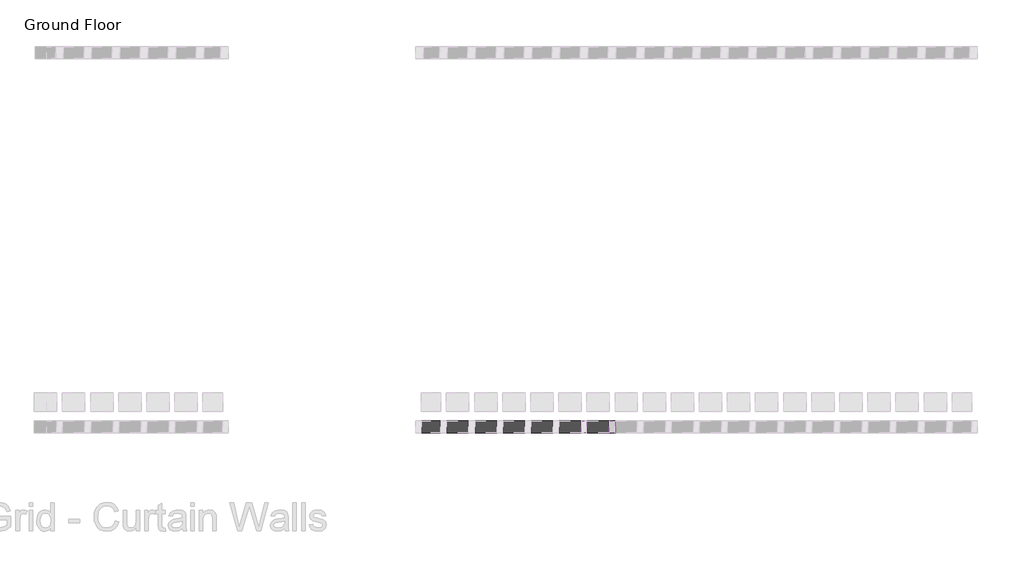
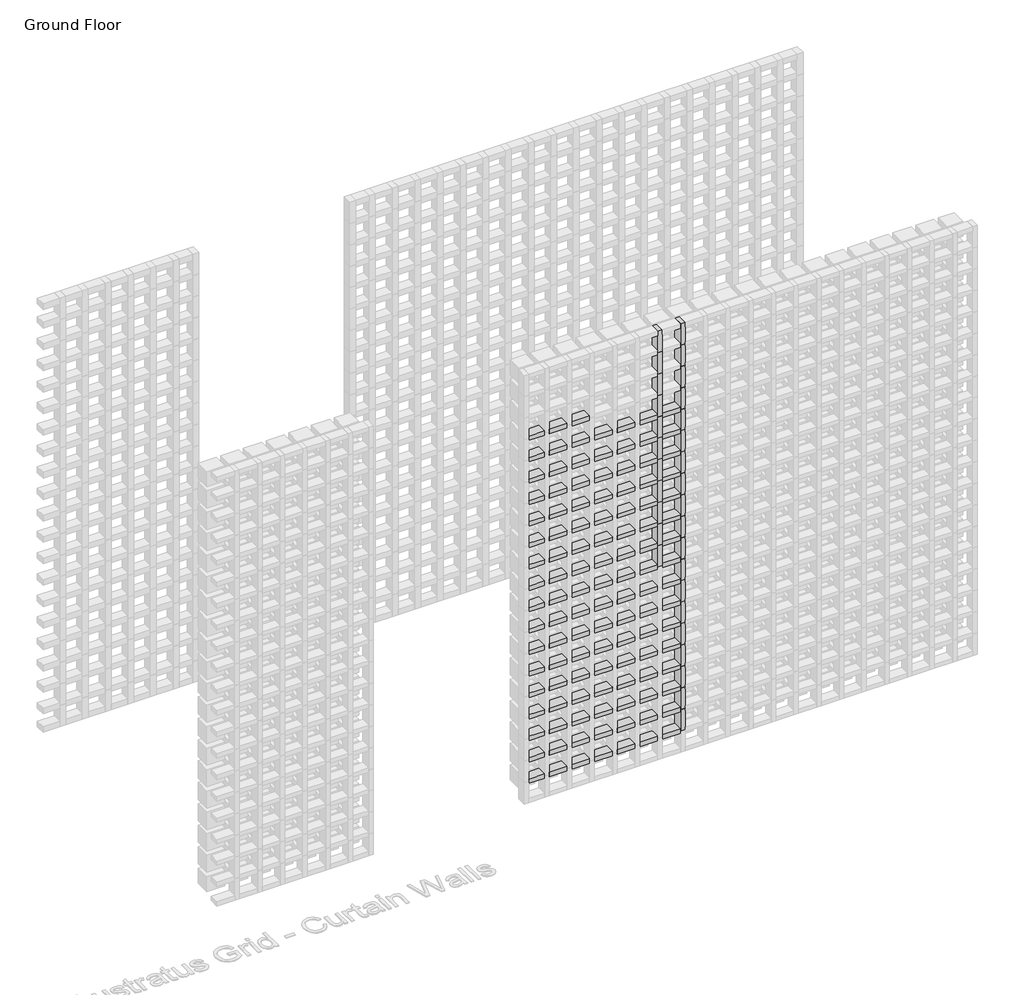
# One storey, part 57 of 350: 145 members.
"""IFC4 building model written with IfcOpenShell, lengths in millimetres."""

from ifc_helpers import new_model, si_unit, origin, place, context, project, spatial, transform, mapped, element, save
from components import rectangular_mullion_5b501421, rectangular_mullion_e9e2e2fa, rectangular_mullion_f28dea33

model = new_model("IFC4")

# Units and contexts
model_context = context("Model", 3, world=origin())
ifc_project = project(units=[si_unit("LENGTHUNIT", "METRE", prefix="MILLI")], contexts=[model_context])

# Site, building, storey
site = spatial("IfcSite", under=ifc_project)
building = spatial("IfcBuilding", under=site)
storey = spatial("IfcBuildingStorey", under=building, Name="Ground Floor", Elevation=0.0)

# Members
placement = place(None, origin())
rectangular_mullion_shape = rectangular_mullion_5b501421(model_context)
element("IfcMember", 1, ObjectType="Rectangular Mullion : Batten_Timber_Modinex_Austratus_Grid_Fascia_30x65_Blackbutt", at=placement, inside=storey, context=model_context, shape_type="MappedRepresentation", body=[
    mapped(rectangular_mullion_shape, transform((6816.4361642, 38968.2978302, 1350.0), x_axis=(1.0, 0.0, 0.0), y_axis=(0.0, -1.0, 0.0), z_axis=(0.0, 0.0, -1.0))),
])
element("IfcMember", 2, ObjectType="Rectangular Mullion : Batten_Timber_Modinex_Austratus_Grid_Fascia_30x65_Blackbutt", at=placement, inside=storey, context=model_context, shape_type="MappedRepresentation", body=[
    mapped(rectangular_mullion_shape, transform((6816.4361642, 38968.2978302, 1500.0), x_axis=(1.0, 0.0, 0.0), y_axis=(0.0, -1.0, 0.0), z_axis=(0.0, 0.0, -1.0))),
])
element("IfcMember", 3, ObjectType="Rectangular Mullion : Batten_Timber_Modinex_Austratus_Grid_Fascia_30x65_Blackbutt", at=placement, inside=storey, context=model_context, shape_type="MappedRepresentation", body=[
    mapped(rectangular_mullion_shape, transform((6816.4361642, 38968.2978302, 1650.0), x_axis=(1.0, 0.0, 0.0), y_axis=(0.0, -1.0, 0.0), z_axis=(0.0, 0.0, -1.0))),
])
element("IfcMember", 4, ObjectType="Rectangular Mullion : Batten_Timber_Modinex_Austratus_Grid_Fascia_30x65_Blackbutt", at=placement, inside=storey, context=model_context, shape_type="MappedRepresentation", body=[
    mapped(rectangular_mullion_shape, transform((6816.4361642, 38968.2978302, 1800.0), x_axis=(1.0, 0.0, 0.0), y_axis=(0.0, -1.0, 0.0), z_axis=(0.0, 0.0, -1.0))),
])
element("IfcMember", 5, ObjectType="Rectangular Mullion : Batten_Timber_Modinex_Austratus_Grid_Fascia_30x65_Blackbutt", at=placement, inside=storey, context=model_context, shape_type="MappedRepresentation", body=[
    mapped(rectangular_mullion_shape, transform((6816.4361642, 38968.2978302, 1950.0), x_axis=(1.0, 0.0, 0.0), y_axis=(0.0, -1.0, 0.0), z_axis=(0.0, 0.0, -1.0))),
])
element("IfcMember", 6, ObjectType="Rectangular Mullion : Batten_Timber_Modinex_Austratus_Grid_Fascia_30x65_Blackbutt", at=placement, inside=storey, context=model_context, shape_type="MappedRepresentation", body=[
    mapped(rectangular_mullion_shape, transform((6816.4361642, 38968.2978302, 2100.0), x_axis=(1.0, 0.0, 0.0), y_axis=(0.0, -1.0, 0.0), z_axis=(0.0, 0.0, -1.0))),
])
element("IfcMember", 7, ObjectType="Rectangular Mullion : Batten_Timber_Modinex_Austratus_Grid_Fascia_30x65_Blackbutt", at=placement, inside=storey, context=model_context, shape_type="MappedRepresentation", body=[
    mapped(rectangular_mullion_shape, transform((6816.4361642, 38968.2978302, 2250.0), x_axis=(1.0, 0.0, 0.0), y_axis=(0.0, -1.0, 0.0), z_axis=(0.0, 0.0, -1.0))),
])
element("IfcMember", 8, ObjectType="Rectangular Mullion : Batten_Timber_Modinex_Austratus_Grid_Fascia_30x65_Blackbutt", at=placement, inside=storey, context=model_context, shape_type="MappedRepresentation", body=[
    mapped(rectangular_mullion_shape, transform((6816.4361642, 38968.2978302, 2400.0), x_axis=(1.0, 0.0, 0.0), y_axis=(0.0, -1.0, 0.0), z_axis=(0.0, 0.0, -1.0))),
])
element("IfcMember", 9, ObjectType="Rectangular Mullion : Batten_Timber_Modinex_Austratus_Grid_Fascia_30x65_Blackbutt", at=placement, inside=storey, context=model_context, shape_type="MappedRepresentation", body=[
    mapped(rectangular_mullion_shape, transform((6816.4361642, 38968.2978302, 2550.0), x_axis=(1.0, 0.0, 0.0), y_axis=(0.0, -1.0, 0.0), z_axis=(0.0, 0.0, -1.0))),
])
element("IfcMember", 10, ObjectType="Rectangular Mullion : Batten_Timber_Modinex_Austratus_Grid_Fascia_30x65_Blackbutt", at=placement, inside=storey, context=model_context, shape_type="MappedRepresentation", body=[
    mapped(rectangular_mullion_shape, transform((6816.4361642, 38968.2978302, 2700.0), x_axis=(1.0, 0.0, 0.0), y_axis=(0.0, -1.0, 0.0), z_axis=(0.0, 0.0, -1.0))),
])
element("IfcMember", 11, ObjectType="Rectangular Mullion : Batten_Timber_Modinex_Austratus_Grid_Fascia_30x65_Blackbutt", at=placement, inside=storey, context=model_context, shape_type="MappedRepresentation", body=[
    mapped(rectangular_mullion_shape, transform((6966.4361642, 38968.2978302, 150.0), x_axis=(1.0, 0.0, 0.0), y_axis=(0.0, -1.0, 0.0), z_axis=(0.0, 0.0, -1.0))),
])
element("IfcMember", 12, ObjectType="Rectangular Mullion : Batten_Timber_Modinex_Austratus_Grid_Fascia_30x65_Blackbutt", at=placement, inside=storey, context=model_context, shape_type="MappedRepresentation", body=[
    mapped(rectangular_mullion_shape, transform((6966.4361642, 38968.2978302, 300.0), x_axis=(1.0, 0.0, 0.0), y_axis=(0.0, -1.0, 0.0), z_axis=(0.0, 0.0, -1.0))),
])
element("IfcMember", 13, ObjectType="Rectangular Mullion : Batten_Timber_Modinex_Austratus_Grid_Fascia_30x65_Blackbutt", at=placement, inside=storey, context=model_context, shape_type="MappedRepresentation", body=[
    mapped(rectangular_mullion_shape, transform((6966.4361642, 38968.2978302, 450.0), x_axis=(1.0, 0.0, 0.0), y_axis=(0.0, -1.0, 0.0), z_axis=(0.0, 0.0, -1.0))),
])
element("IfcMember", 14, ObjectType="Rectangular Mullion : Batten_Timber_Modinex_Austratus_Grid_Fascia_30x65_Blackbutt", at=placement, inside=storey, context=model_context, shape_type="MappedRepresentation", body=[
    mapped(rectangular_mullion_shape, transform((6966.4361642, 38968.2978302, 600.0), x_axis=(1.0, 0.0, 0.0), y_axis=(0.0, -1.0, 0.0), z_axis=(0.0, 0.0, -1.0))),
])
element("IfcMember", 15, ObjectType="Rectangular Mullion : Batten_Timber_Modinex_Austratus_Grid_Fascia_30x65_Blackbutt", at=placement, inside=storey, context=model_context, shape_type="MappedRepresentation", body=[
    mapped(rectangular_mullion_shape, transform((6966.4361642, 38968.2978302, 750.0), x_axis=(1.0, 0.0, 0.0), y_axis=(0.0, -1.0, 0.0), z_axis=(0.0, 0.0, -1.0))),
])
element("IfcMember", 16, ObjectType="Rectangular Mullion : Batten_Timber_Modinex_Austratus_Grid_Fascia_30x65_Blackbutt", at=placement, inside=storey, context=model_context, shape_type="MappedRepresentation", body=[
    mapped(rectangular_mullion_shape, transform((6966.4361642, 38968.2978302, 900.0), x_axis=(1.0, 0.0, 0.0), y_axis=(0.0, -1.0, 0.0), z_axis=(0.0, 0.0, -1.0))),
])
element("IfcMember", 17, ObjectType="Rectangular Mullion : Batten_Timber_Modinex_Austratus_Grid_Fascia_30x65_Blackbutt", at=placement, inside=storey, context=model_context, shape_type="MappedRepresentation", body=[
    mapped(rectangular_mullion_shape, transform((6966.4361642, 38968.2978302, 1050.0), x_axis=(1.0, 0.0, 0.0), y_axis=(0.0, -1.0, 0.0), z_axis=(0.0, 0.0, -1.0))),
])
element("IfcMember", 18, ObjectType="Rectangular Mullion : Batten_Timber_Modinex_Austratus_Grid_Fascia_30x65_Blackbutt", at=placement, inside=storey, context=model_context, shape_type="MappedRepresentation", body=[
    mapped(rectangular_mullion_shape, transform((6966.4361642, 38968.2978302, 1200.0), x_axis=(1.0, 0.0, 0.0), y_axis=(0.0, -1.0, 0.0), z_axis=(0.0, 0.0, -1.0))),
])
element("IfcMember", 19, ObjectType="Rectangular Mullion : Batten_Timber_Modinex_Austratus_Grid_Fascia_30x65_Blackbutt", at=placement, inside=storey, context=model_context, shape_type="MappedRepresentation", body=[
    mapped(rectangular_mullion_shape, transform((6966.4361642, 38968.2978302, 1350.0), x_axis=(1.0, 0.0, 0.0), y_axis=(0.0, -1.0, 0.0), z_axis=(0.0, 0.0, -1.0))),
])
element("IfcMember", 20, ObjectType="Rectangular Mullion : Batten_Timber_Modinex_Austratus_Grid_Fascia_30x65_Blackbutt", at=placement, inside=storey, context=model_context, shape_type="MappedRepresentation", body=[
    mapped(rectangular_mullion_shape, transform((6966.4361642, 38968.2978302, 1500.0), x_axis=(1.0, 0.0, 0.0), y_axis=(0.0, -1.0, 0.0), z_axis=(0.0, 0.0, -1.0))),
])
element("IfcMember", 21, ObjectType="Rectangular Mullion : Batten_Timber_Modinex_Austratus_Grid_Fascia_30x65_Blackbutt", at=placement, inside=storey, context=model_context, shape_type="MappedRepresentation", body=[
    mapped(rectangular_mullion_shape, transform((6966.4361642, 38968.2978302, 1650.0), x_axis=(1.0, 0.0, 0.0), y_axis=(0.0, -1.0, 0.0), z_axis=(0.0, 0.0, -1.0))),
])
element("IfcMember", 22, ObjectType="Rectangular Mullion : Batten_Timber_Modinex_Austratus_Grid_Fascia_30x65_Blackbutt", at=placement, inside=storey, context=model_context, shape_type="MappedRepresentation", body=[
    mapped(rectangular_mullion_shape, transform((6966.4361642, 38968.2978302, 1800.0), x_axis=(1.0, 0.0, 0.0), y_axis=(0.0, -1.0, 0.0), z_axis=(0.0, 0.0, -1.0))),
])
element("IfcMember", 23, ObjectType="Rectangular Mullion : Batten_Timber_Modinex_Austratus_Grid_Fascia_30x65_Blackbutt", at=placement, inside=storey, context=model_context, shape_type="MappedRepresentation", body=[
    mapped(rectangular_mullion_shape, transform((6966.4361642, 38968.2978302, 1950.0), x_axis=(1.0, 0.0, 0.0), y_axis=(0.0, -1.0, 0.0), z_axis=(0.0, 0.0, -1.0))),
])
element("IfcMember", 24, ObjectType="Rectangular Mullion : Batten_Timber_Modinex_Austratus_Grid_Fascia_30x65_Blackbutt", at=placement, inside=storey, context=model_context, shape_type="MappedRepresentation", body=[
    mapped(rectangular_mullion_shape, transform((6966.4361642, 38968.2978302, 2100.0), x_axis=(1.0, 0.0, 0.0), y_axis=(0.0, -1.0, 0.0), z_axis=(0.0, 0.0, -1.0))),
])
element("IfcMember", 25, ObjectType="Rectangular Mullion : Batten_Timber_Modinex_Austratus_Grid_Fascia_30x65_Blackbutt", at=placement, inside=storey, context=model_context, shape_type="MappedRepresentation", body=[
    mapped(rectangular_mullion_shape, transform((6966.4361642, 38968.2978302, 2250.0), x_axis=(1.0, 0.0, 0.0), y_axis=(0.0, -1.0, 0.0), z_axis=(0.0, 0.0, -1.0))),
])
element("IfcMember", 26, ObjectType="Rectangular Mullion : Batten_Timber_Modinex_Austratus_Grid_Fascia_30x65_Blackbutt", at=placement, inside=storey, context=model_context, shape_type="MappedRepresentation", body=[
    mapped(rectangular_mullion_shape, transform((6966.4361642, 38968.2978302, 2400.0), x_axis=(1.0, 0.0, 0.0), y_axis=(0.0, -1.0, 0.0), z_axis=(0.0, 0.0, -1.0))),
])
element("IfcMember", 27, ObjectType="Rectangular Mullion : Batten_Timber_Modinex_Austratus_Grid_Fascia_30x65_Blackbutt", at=placement, inside=storey, context=model_context, shape_type="MappedRepresentation", body=[
    mapped(rectangular_mullion_shape, transform((6966.4361642, 38968.2978302, 2550.0), x_axis=(1.0, 0.0, 0.0), y_axis=(0.0, -1.0, 0.0), z_axis=(0.0, 0.0, -1.0))),
])
element("IfcMember", 28, ObjectType="Rectangular Mullion : Batten_Timber_Modinex_Austratus_Grid_Fascia_30x65_Blackbutt", at=placement, inside=storey, context=model_context, shape_type="MappedRepresentation", body=[
    mapped(rectangular_mullion_shape, transform((6966.4361642, 38968.2978302, 2700.0), x_axis=(1.0, 0.0, 0.0), y_axis=(0.0, -1.0, 0.0), z_axis=(0.0, 0.0, -1.0))),
])
element("IfcMember", 29, ObjectType="Rectangular Mullion : Batten_Timber_Modinex_Austratus_Grid_Fascia_30x65_Blackbutt", at=placement, inside=storey, context=model_context, shape_type="MappedRepresentation", body=[
    mapped(rectangular_mullion_shape, transform((6816.4361642, 38968.2978302, 2850.0), x_axis=(1.0, 0.0, 0.0), y_axis=(0.0, -1.0, 0.0), z_axis=(0.0, 0.0, -1.0))),
])
element("IfcMember", 30, ObjectType="Rectangular Mullion : Batten_Timber_Modinex_Austratus_Grid_Fascia_30x65_Blackbutt", at=placement, inside=storey, context=model_context, shape_type="MappedRepresentation", body=[
    mapped(rectangular_mullion_shape, transform((6966.4361642, 38968.2978302, 2850.0), x_axis=(1.0, 0.0, 0.0), y_axis=(0.0, -1.0, 0.0), z_axis=(0.0, 0.0, -1.0))),
])
rectangular_mullion_2_shape = rectangular_mullion_e9e2e2fa(model_context)
element("IfcMember", 31, ObjectType="Rectangular Mullion : Batten_Timber_Modinex_Austratus_Grid_Fascia_30x65_Blackbutt", at=placement, inside=storey, context=model_context, shape_type="MappedRepresentation", body=[
    mapped(rectangular_mullion_2_shape, transform((6051.4361642, 38968.2978302, 150.0), x_axis=(0.0, 0.0, 1.0), y_axis=(0.0, -1.0, 0.0), z_axis=(1.0, 0.0, 0.0))),
])
element("IfcMember", 32, ObjectType="Rectangular Mullion : Batten_Timber_Modinex_Austratus_Grid_Fascia_30x65_Blackbutt", at=placement, inside=storey, context=model_context, shape_type="MappedRepresentation", body=[
    mapped(rectangular_mullion_2_shape, transform((6051.4361642, 38968.2978302, 300.0), x_axis=(0.0, 0.0, 1.0), y_axis=(0.0, -1.0, 0.0), z_axis=(1.0, 0.0, 0.0))),
])
element("IfcMember", 33, ObjectType="Rectangular Mullion : Batten_Timber_Modinex_Austratus_Grid_Fascia_30x65_Blackbutt", at=placement, inside=storey, context=model_context, shape_type="MappedRepresentation", body=[
    mapped(rectangular_mullion_2_shape, transform((6051.4361642, 38968.2978302, 450.0), x_axis=(0.0, 0.0, 1.0), y_axis=(0.0, -1.0, 0.0), z_axis=(1.0, 0.0, 0.0))),
])
element("IfcMember", 34, ObjectType="Rectangular Mullion : Batten_Timber_Modinex_Austratus_Grid_Fascia_30x65_Blackbutt", at=placement, inside=storey, context=model_context, shape_type="MappedRepresentation", body=[
    mapped(rectangular_mullion_2_shape, transform((6051.4361642, 38968.2978302, 600.0), x_axis=(0.0, 0.0, 1.0), y_axis=(0.0, -1.0, 0.0), z_axis=(1.0, 0.0, 0.0))),
])
element("IfcMember", 35, ObjectType="Rectangular Mullion : Batten_Timber_Modinex_Austratus_Grid_Fascia_30x65_Blackbutt", at=placement, inside=storey, context=model_context, shape_type="MappedRepresentation", body=[
    mapped(rectangular_mullion_2_shape, transform((6051.4361642, 38968.2978302, 750.0), x_axis=(0.0, 0.0, 1.0), y_axis=(0.0, -1.0, 0.0), z_axis=(1.0, 0.0, 0.0))),
])
element("IfcMember", 36, ObjectType="Rectangular Mullion : Batten_Timber_Modinex_Austratus_Grid_Fascia_30x65_Blackbutt", at=placement, inside=storey, context=model_context, shape_type="MappedRepresentation", body=[
    mapped(rectangular_mullion_2_shape, transform((6051.4361642, 38968.2978302, 900.0), x_axis=(0.0, 0.0, 1.0), y_axis=(0.0, -1.0, 0.0), z_axis=(1.0, 0.0, 0.0))),
])
element("IfcMember", 37, ObjectType="Rectangular Mullion : Batten_Timber_Modinex_Austratus_Grid_Fascia_30x65_Blackbutt", at=placement, inside=storey, context=model_context, shape_type="MappedRepresentation", body=[
    mapped(rectangular_mullion_2_shape, transform((6051.4361642, 38968.2978302, 1050.0), x_axis=(0.0, 0.0, 1.0), y_axis=(0.0, -1.0, 0.0), z_axis=(1.0, 0.0, 0.0))),
])
element("IfcMember", 38, ObjectType="Rectangular Mullion : Batten_Timber_Modinex_Austratus_Grid_Fascia_30x65_Blackbutt", at=placement, inside=storey, context=model_context, shape_type="MappedRepresentation", body=[
    mapped(rectangular_mullion_2_shape, transform((6051.4361642, 38968.2978302, 1200.0), x_axis=(0.0, 0.0, 1.0), y_axis=(0.0, -1.0, 0.0), z_axis=(1.0, 0.0, 0.0))),
])
element("IfcMember", 39, ObjectType="Rectangular Mullion : Batten_Timber_Modinex_Austratus_Grid_Fascia_30x65_Blackbutt", at=placement, inside=storey, context=model_context, shape_type="MappedRepresentation", body=[
    mapped(rectangular_mullion_2_shape, transform((6051.4361642, 38968.2978302, 1350.0), x_axis=(0.0, 0.0, 1.0), y_axis=(0.0, -1.0, 0.0), z_axis=(1.0, 0.0, 0.0))),
])
element("IfcMember", 40, ObjectType="Rectangular Mullion : Batten_Timber_Modinex_Austratus_Grid_Fascia_30x65_Blackbutt", at=placement, inside=storey, context=model_context, shape_type="MappedRepresentation", body=[
    mapped(rectangular_mullion_2_shape, transform((6051.4361642, 38968.2978302, 1500.0), x_axis=(0.0, 0.0, 1.0), y_axis=(0.0, -1.0, 0.0), z_axis=(1.0, 0.0, 0.0))),
])
element("IfcMember", 41, ObjectType="Rectangular Mullion : Batten_Timber_Modinex_Austratus_Grid_Fascia_30x65_Blackbutt", at=placement, inside=storey, context=model_context, shape_type="MappedRepresentation", body=[
    mapped(rectangular_mullion_2_shape, transform((6051.4361642, 38968.2978302, 1650.0), x_axis=(0.0, 0.0, 1.0), y_axis=(0.0, -1.0, 0.0), z_axis=(1.0, 0.0, 0.0))),
])
element("IfcMember", 42, ObjectType="Rectangular Mullion : Batten_Timber_Modinex_Austratus_Grid_Fascia_30x65_Blackbutt", at=placement, inside=storey, context=model_context, shape_type="MappedRepresentation", body=[
    mapped(rectangular_mullion_2_shape, transform((6051.4361642, 38968.2978302, 1800.0), x_axis=(0.0, 0.0, 1.0), y_axis=(0.0, -1.0, 0.0), z_axis=(1.0, 0.0, 0.0))),
])
element("IfcMember", 43, ObjectType="Rectangular Mullion : Batten_Timber_Modinex_Austratus_Grid_Fascia_30x65_Blackbutt", at=placement, inside=storey, context=model_context, shape_type="MappedRepresentation", body=[
    mapped(rectangular_mullion_2_shape, transform((6051.4361642, 38968.2978302, 1950.0), x_axis=(0.0, 0.0, 1.0), y_axis=(0.0, -1.0, 0.0), z_axis=(1.0, 0.0, 0.0))),
])
element("IfcMember", 44, ObjectType="Rectangular Mullion : Batten_Timber_Modinex_Austratus_Grid_Fascia_30x65_Blackbutt", at=placement, inside=storey, context=model_context, shape_type="MappedRepresentation", body=[
    mapped(rectangular_mullion_2_shape, transform((6051.4361642, 38968.2978302, 2100.0), x_axis=(0.0, 0.0, 1.0), y_axis=(0.0, -1.0, 0.0), z_axis=(1.0, 0.0, 0.0))),
])
element("IfcMember", 45, ObjectType="Rectangular Mullion : Batten_Timber_Modinex_Austratus_Grid_Fascia_30x65_Blackbutt", at=placement, inside=storey, context=model_context, shape_type="MappedRepresentation", body=[
    mapped(rectangular_mullion_2_shape, transform((6051.4361642, 38968.2978302, 2250.0), x_axis=(0.0, 0.0, 1.0), y_axis=(0.0, -1.0, 0.0), z_axis=(1.0, 0.0, 0.0))),
])
element("IfcMember", 46, ObjectType="Rectangular Mullion : Batten_Timber_Modinex_Austratus_Grid_Fascia_30x65_Blackbutt", at=placement, inside=storey, context=model_context, shape_type="MappedRepresentation", body=[
    mapped(rectangular_mullion_2_shape, transform((6051.4361642, 38968.2978302, 2400.0), x_axis=(0.0, 0.0, 1.0), y_axis=(0.0, -1.0, 0.0), z_axis=(1.0, 0.0, 0.0))),
])
element("IfcMember", 47, ObjectType="Rectangular Mullion : Batten_Timber_Modinex_Austratus_Grid_Fascia_30x65_Blackbutt", at=placement, inside=storey, context=model_context, shape_type="MappedRepresentation", body=[
    mapped(rectangular_mullion_2_shape, transform((6051.4361642, 38968.2978302, 2550.0), x_axis=(0.0, 0.0, 1.0), y_axis=(0.0, -1.0, 0.0), z_axis=(1.0, 0.0, 0.0))),
])
rectangular_mullion_3_shape = rectangular_mullion_f28dea33(model_context)
element("IfcMember", 48, ObjectType="Rectangular Mullion : Batten_Timber_Modinex_Austratus_Grid_Fascia_30x65_Blackbutt", at=placement, inside=storey, context=model_context, shape_type="MappedRepresentation", body=[
    mapped(rectangular_mullion_3_shape, transform((6201.4361642, 38968.2978302, 150.0), x_axis=(0.0, 0.0, 1.0), y_axis=(0.0, -1.0, 0.0), z_axis=(1.0, 0.0, 0.0))),
])
element("IfcMember", 49, ObjectType="Rectangular Mullion : Batten_Timber_Modinex_Austratus_Grid_Fascia_30x65_Blackbutt", at=placement, inside=storey, context=model_context, shape_type="MappedRepresentation", body=[
    mapped(rectangular_mullion_3_shape, transform((6351.4361642, 38968.2978302, 150.0), x_axis=(0.0, 0.0, 1.0), y_axis=(0.0, -1.0, 0.0), z_axis=(1.0, 0.0, 0.0))),
])
element("IfcMember", 50, ObjectType="Rectangular Mullion : Batten_Timber_Modinex_Austratus_Grid_Fascia_30x65_Blackbutt", at=placement, inside=storey, context=model_context, shape_type="MappedRepresentation", body=[
    mapped(rectangular_mullion_3_shape, transform((6501.4361642, 38968.2978302, 150.0), x_axis=(0.0, 0.0, 1.0), y_axis=(0.0, -1.0, 0.0), z_axis=(1.0, 0.0, 0.0))),
])
element("IfcMember", 51, ObjectType="Rectangular Mullion : Batten_Timber_Modinex_Austratus_Grid_Fascia_30x65_Blackbutt", at=placement, inside=storey, context=model_context, shape_type="MappedRepresentation", body=[
    mapped(rectangular_mullion_3_shape, transform((6651.4361642, 38968.2978302, 150.0), x_axis=(0.0, 0.0, 1.0), y_axis=(0.0, -1.0, 0.0), z_axis=(1.0, 0.0, 0.0))),
])
element("IfcMember", 52, ObjectType="Rectangular Mullion : Batten_Timber_Modinex_Austratus_Grid_Fascia_30x65_Blackbutt", at=placement, inside=storey, context=model_context, shape_type="MappedRepresentation", body=[
    mapped(rectangular_mullion_3_shape, transform((6801.4361642, 38968.2978302, 150.0), x_axis=(0.0, 0.0, 1.0), y_axis=(0.0, -1.0, 0.0), z_axis=(1.0, 0.0, 0.0))),
])
element("IfcMember", 53, ObjectType="Rectangular Mullion : Batten_Timber_Modinex_Austratus_Grid_Fascia_30x65_Blackbutt", at=placement, inside=storey, context=model_context, shape_type="MappedRepresentation", body=[
    mapped(rectangular_mullion_3_shape, transform((6951.4361642, 38968.2978302, 150.0), x_axis=(0.0, 0.0, 1.0), y_axis=(0.0, -1.0, 0.0), z_axis=(1.0, 0.0, 0.0))),
])
element("IfcMember", 54, ObjectType="Rectangular Mullion : Batten_Timber_Modinex_Austratus_Grid_Fascia_30x65_Blackbutt", at=placement, inside=storey, context=model_context, shape_type="MappedRepresentation", body=[
    mapped(rectangular_mullion_3_shape, transform((6201.4361642, 38968.2978302, 300.0), x_axis=(0.0, 0.0, 1.0), y_axis=(0.0, -1.0, 0.0), z_axis=(1.0, 0.0, 0.0))),
])
element("IfcMember", 55, ObjectType="Rectangular Mullion : Batten_Timber_Modinex_Austratus_Grid_Fascia_30x65_Blackbutt", at=placement, inside=storey, context=model_context, shape_type="MappedRepresentation", body=[
    mapped(rectangular_mullion_3_shape, transform((6351.4361642, 38968.2978302, 300.0), x_axis=(0.0, 0.0, 1.0), y_axis=(0.0, -1.0, 0.0), z_axis=(1.0, 0.0, 0.0))),
])
element("IfcMember", 56, ObjectType="Rectangular Mullion : Batten_Timber_Modinex_Austratus_Grid_Fascia_30x65_Blackbutt", at=placement, inside=storey, context=model_context, shape_type="MappedRepresentation", body=[
    mapped(rectangular_mullion_3_shape, transform((6501.4361642, 38968.2978302, 300.0), x_axis=(0.0, 0.0, 1.0), y_axis=(0.0, -1.0, 0.0), z_axis=(1.0, 0.0, 0.0))),
])
element("IfcMember", 57, ObjectType="Rectangular Mullion : Batten_Timber_Modinex_Austratus_Grid_Fascia_30x65_Blackbutt", at=placement, inside=storey, context=model_context, shape_type="MappedRepresentation", body=[
    mapped(rectangular_mullion_3_shape, transform((6651.4361642, 38968.2978302, 300.0), x_axis=(0.0, 0.0, 1.0), y_axis=(0.0, -1.0, 0.0), z_axis=(1.0, 0.0, 0.0))),
])
element("IfcMember", 58, ObjectType="Rectangular Mullion : Batten_Timber_Modinex_Austratus_Grid_Fascia_30x65_Blackbutt", at=placement, inside=storey, context=model_context, shape_type="MappedRepresentation", body=[
    mapped(rectangular_mullion_3_shape, transform((6801.4361642, 38968.2978302, 300.0), x_axis=(0.0, 0.0, 1.0), y_axis=(0.0, -1.0, 0.0), z_axis=(1.0, 0.0, 0.0))),
])
element("IfcMember", 59, ObjectType="Rectangular Mullion : Batten_Timber_Modinex_Austratus_Grid_Fascia_30x65_Blackbutt", at=placement, inside=storey, context=model_context, shape_type="MappedRepresentation", body=[
    mapped(rectangular_mullion_3_shape, transform((6951.4361642, 38968.2978302, 300.0), x_axis=(0.0, 0.0, 1.0), y_axis=(0.0, -1.0, 0.0), z_axis=(1.0, 0.0, 0.0))),
])
element("IfcMember", 60, ObjectType="Rectangular Mullion : Batten_Timber_Modinex_Austratus_Grid_Fascia_30x65_Blackbutt", at=placement, inside=storey, context=model_context, shape_type="MappedRepresentation", body=[
    mapped(rectangular_mullion_3_shape, transform((6201.4361642, 38968.2978302, 450.0), x_axis=(0.0, 0.0, 1.0), y_axis=(0.0, -1.0, 0.0), z_axis=(1.0, 0.0, 0.0))),
])
element("IfcMember", 61, ObjectType="Rectangular Mullion : Batten_Timber_Modinex_Austratus_Grid_Fascia_30x65_Blackbutt", at=placement, inside=storey, context=model_context, shape_type="MappedRepresentation", body=[
    mapped(rectangular_mullion_3_shape, transform((6351.4361642, 38968.2978302, 450.0), x_axis=(0.0, 0.0, 1.0), y_axis=(0.0, -1.0, 0.0), z_axis=(1.0, 0.0, 0.0))),
])
element("IfcMember", 62, ObjectType="Rectangular Mullion : Batten_Timber_Modinex_Austratus_Grid_Fascia_30x65_Blackbutt", at=placement, inside=storey, context=model_context, shape_type="MappedRepresentation", body=[
    mapped(rectangular_mullion_3_shape, transform((6501.4361642, 38968.2978302, 450.0), x_axis=(0.0, 0.0, 1.0), y_axis=(0.0, -1.0, 0.0), z_axis=(1.0, 0.0, 0.0))),
])
element("IfcMember", 63, ObjectType="Rectangular Mullion : Batten_Timber_Modinex_Austratus_Grid_Fascia_30x65_Blackbutt", at=placement, inside=storey, context=model_context, shape_type="MappedRepresentation", body=[
    mapped(rectangular_mullion_3_shape, transform((6651.4361642, 38968.2978302, 450.0), x_axis=(0.0, 0.0, 1.0), y_axis=(0.0, -1.0, 0.0), z_axis=(1.0, 0.0, 0.0))),
])
element("IfcMember", 64, ObjectType="Rectangular Mullion : Batten_Timber_Modinex_Austratus_Grid_Fascia_30x65_Blackbutt", at=placement, inside=storey, context=model_context, shape_type="MappedRepresentation", body=[
    mapped(rectangular_mullion_3_shape, transform((6801.4361642, 38968.2978302, 450.0), x_axis=(0.0, 0.0, 1.0), y_axis=(0.0, -1.0, 0.0), z_axis=(1.0, 0.0, 0.0))),
])
element("IfcMember", 65, ObjectType="Rectangular Mullion : Batten_Timber_Modinex_Austratus_Grid_Fascia_30x65_Blackbutt", at=placement, inside=storey, context=model_context, shape_type="MappedRepresentation", body=[
    mapped(rectangular_mullion_3_shape, transform((6951.4361642, 38968.2978302, 450.0), x_axis=(0.0, 0.0, 1.0), y_axis=(0.0, -1.0, 0.0), z_axis=(1.0, 0.0, 0.0))),
])
element("IfcMember", 66, ObjectType="Rectangular Mullion : Batten_Timber_Modinex_Austratus_Grid_Fascia_30x65_Blackbutt", at=placement, inside=storey, context=model_context, shape_type="MappedRepresentation", body=[
    mapped(rectangular_mullion_3_shape, transform((6201.4361642, 38968.2978302, 600.0), x_axis=(0.0, 0.0, 1.0), y_axis=(0.0, -1.0, 0.0), z_axis=(1.0, 0.0, 0.0))),
])
element("IfcMember", 67, ObjectType="Rectangular Mullion : Batten_Timber_Modinex_Austratus_Grid_Fascia_30x65_Blackbutt", at=placement, inside=storey, context=model_context, shape_type="MappedRepresentation", body=[
    mapped(rectangular_mullion_3_shape, transform((6351.4361642, 38968.2978302, 600.0), x_axis=(0.0, 0.0, 1.0), y_axis=(0.0, -1.0, 0.0), z_axis=(1.0, 0.0, 0.0))),
])
element("IfcMember", 68, ObjectType="Rectangular Mullion : Batten_Timber_Modinex_Austratus_Grid_Fascia_30x65_Blackbutt", at=placement, inside=storey, context=model_context, shape_type="MappedRepresentation", body=[
    mapped(rectangular_mullion_3_shape, transform((6501.4361642, 38968.2978302, 600.0), x_axis=(0.0, 0.0, 1.0), y_axis=(0.0, -1.0, 0.0), z_axis=(1.0, 0.0, 0.0))),
])
element("IfcMember", 69, ObjectType="Rectangular Mullion : Batten_Timber_Modinex_Austratus_Grid_Fascia_30x65_Blackbutt", at=placement, inside=storey, context=model_context, shape_type="MappedRepresentation", body=[
    mapped(rectangular_mullion_3_shape, transform((6651.4361642, 38968.2978302, 600.0), x_axis=(0.0, 0.0, 1.0), y_axis=(0.0, -1.0, 0.0), z_axis=(1.0, 0.0, 0.0))),
])
element("IfcMember", 70, ObjectType="Rectangular Mullion : Batten_Timber_Modinex_Austratus_Grid_Fascia_30x65_Blackbutt", at=placement, inside=storey, context=model_context, shape_type="MappedRepresentation", body=[
    mapped(rectangular_mullion_3_shape, transform((6801.4361642, 38968.2978302, 600.0), x_axis=(0.0, 0.0, 1.0), y_axis=(0.0, -1.0, 0.0), z_axis=(1.0, 0.0, 0.0))),
])
element("IfcMember", 71, ObjectType="Rectangular Mullion : Batten_Timber_Modinex_Austratus_Grid_Fascia_30x65_Blackbutt", at=placement, inside=storey, context=model_context, shape_type="MappedRepresentation", body=[
    mapped(rectangular_mullion_3_shape, transform((6951.4361642, 38968.2978302, 600.0), x_axis=(0.0, 0.0, 1.0), y_axis=(0.0, -1.0, 0.0), z_axis=(1.0, 0.0, 0.0))),
])
element("IfcMember", 72, ObjectType="Rectangular Mullion : Batten_Timber_Modinex_Austratus_Grid_Fascia_30x65_Blackbutt", at=placement, inside=storey, context=model_context, shape_type="MappedRepresentation", body=[
    mapped(rectangular_mullion_3_shape, transform((6201.4361642, 38968.2978302, 750.0), x_axis=(0.0, 0.0, 1.0), y_axis=(0.0, -1.0, 0.0), z_axis=(1.0, 0.0, 0.0))),
])
element("IfcMember", 73, ObjectType="Rectangular Mullion : Batten_Timber_Modinex_Austratus_Grid_Fascia_30x65_Blackbutt", at=placement, inside=storey, context=model_context, shape_type="MappedRepresentation", body=[
    mapped(rectangular_mullion_3_shape, transform((6351.4361642, 38968.2978302, 750.0), x_axis=(0.0, 0.0, 1.0), y_axis=(0.0, -1.0, 0.0), z_axis=(1.0, 0.0, 0.0))),
])
element("IfcMember", 74, ObjectType="Rectangular Mullion : Batten_Timber_Modinex_Austratus_Grid_Fascia_30x65_Blackbutt", at=placement, inside=storey, context=model_context, shape_type="MappedRepresentation", body=[
    mapped(rectangular_mullion_3_shape, transform((6501.4361642, 38968.2978302, 750.0), x_axis=(0.0, 0.0, 1.0), y_axis=(0.0, -1.0, 0.0), z_axis=(1.0, 0.0, 0.0))),
])
element("IfcMember", 75, ObjectType="Rectangular Mullion : Batten_Timber_Modinex_Austratus_Grid_Fascia_30x65_Blackbutt", at=placement, inside=storey, context=model_context, shape_type="MappedRepresentation", body=[
    mapped(rectangular_mullion_3_shape, transform((6651.4361642, 38968.2978302, 750.0), x_axis=(0.0, 0.0, 1.0), y_axis=(0.0, -1.0, 0.0), z_axis=(1.0, 0.0, 0.0))),
])
element("IfcMember", 76, ObjectType="Rectangular Mullion : Batten_Timber_Modinex_Austratus_Grid_Fascia_30x65_Blackbutt", at=placement, inside=storey, context=model_context, shape_type="MappedRepresentation", body=[
    mapped(rectangular_mullion_3_shape, transform((6801.4361642, 38968.2978302, 750.0), x_axis=(0.0, 0.0, 1.0), y_axis=(0.0, -1.0, 0.0), z_axis=(1.0, 0.0, 0.0))),
])
element("IfcMember", 77, ObjectType="Rectangular Mullion : Batten_Timber_Modinex_Austratus_Grid_Fascia_30x65_Blackbutt", at=placement, inside=storey, context=model_context, shape_type="MappedRepresentation", body=[
    mapped(rectangular_mullion_3_shape, transform((6951.4361642, 38968.2978302, 750.0), x_axis=(0.0, 0.0, 1.0), y_axis=(0.0, -1.0, 0.0), z_axis=(1.0, 0.0, 0.0))),
])
element("IfcMember", 78, ObjectType="Rectangular Mullion : Batten_Timber_Modinex_Austratus_Grid_Fascia_30x65_Blackbutt", at=placement, inside=storey, context=model_context, shape_type="MappedRepresentation", body=[
    mapped(rectangular_mullion_3_shape, transform((6201.4361642, 38968.2978302, 900.0), x_axis=(0.0, 0.0, 1.0), y_axis=(0.0, -1.0, 0.0), z_axis=(1.0, 0.0, 0.0))),
])
element("IfcMember", 79, ObjectType="Rectangular Mullion : Batten_Timber_Modinex_Austratus_Grid_Fascia_30x65_Blackbutt", at=placement, inside=storey, context=model_context, shape_type="MappedRepresentation", body=[
    mapped(rectangular_mullion_3_shape, transform((6351.4361642, 38968.2978302, 900.0), x_axis=(0.0, 0.0, 1.0), y_axis=(0.0, -1.0, 0.0), z_axis=(1.0, 0.0, 0.0))),
])
element("IfcMember", 80, ObjectType="Rectangular Mullion : Batten_Timber_Modinex_Austratus_Grid_Fascia_30x65_Blackbutt", at=placement, inside=storey, context=model_context, shape_type="MappedRepresentation", body=[
    mapped(rectangular_mullion_3_shape, transform((6501.4361642, 38968.2978302, 900.0), x_axis=(0.0, 0.0, 1.0), y_axis=(0.0, -1.0, 0.0), z_axis=(1.0, 0.0, 0.0))),
])
element("IfcMember", 81, ObjectType="Rectangular Mullion : Batten_Timber_Modinex_Austratus_Grid_Fascia_30x65_Blackbutt", at=placement, inside=storey, context=model_context, shape_type="MappedRepresentation", body=[
    mapped(rectangular_mullion_3_shape, transform((6651.4361642, 38968.2978302, 900.0), x_axis=(0.0, 0.0, 1.0), y_axis=(0.0, -1.0, 0.0), z_axis=(1.0, 0.0, 0.0))),
])
element("IfcMember", 82, ObjectType="Rectangular Mullion : Batten_Timber_Modinex_Austratus_Grid_Fascia_30x65_Blackbutt", at=placement, inside=storey, context=model_context, shape_type="MappedRepresentation", body=[
    mapped(rectangular_mullion_3_shape, transform((6801.4361642, 38968.2978302, 900.0), x_axis=(0.0, 0.0, 1.0), y_axis=(0.0, -1.0, 0.0), z_axis=(1.0, 0.0, 0.0))),
])
element("IfcMember", 83, ObjectType="Rectangular Mullion : Batten_Timber_Modinex_Austratus_Grid_Fascia_30x65_Blackbutt", at=placement, inside=storey, context=model_context, shape_type="MappedRepresentation", body=[
    mapped(rectangular_mullion_3_shape, transform((6951.4361642, 38968.2978302, 900.0), x_axis=(0.0, 0.0, 1.0), y_axis=(0.0, -1.0, 0.0), z_axis=(1.0, 0.0, 0.0))),
])
element("IfcMember", 84, ObjectType="Rectangular Mullion : Batten_Timber_Modinex_Austratus_Grid_Fascia_30x65_Blackbutt", at=placement, inside=storey, context=model_context, shape_type="MappedRepresentation", body=[
    mapped(rectangular_mullion_3_shape, transform((6201.4361642, 38968.2978302, 1050.0), x_axis=(0.0, 0.0, 1.0), y_axis=(0.0, -1.0, 0.0), z_axis=(1.0, 0.0, 0.0))),
])
element("IfcMember", 85, ObjectType="Rectangular Mullion : Batten_Timber_Modinex_Austratus_Grid_Fascia_30x65_Blackbutt", at=placement, inside=storey, context=model_context, shape_type="MappedRepresentation", body=[
    mapped(rectangular_mullion_3_shape, transform((6351.4361642, 38968.2978302, 1050.0), x_axis=(0.0, 0.0, 1.0), y_axis=(0.0, -1.0, 0.0), z_axis=(1.0, 0.0, 0.0))),
])
element("IfcMember", 86, ObjectType="Rectangular Mullion : Batten_Timber_Modinex_Austratus_Grid_Fascia_30x65_Blackbutt", at=placement, inside=storey, context=model_context, shape_type="MappedRepresentation", body=[
    mapped(rectangular_mullion_3_shape, transform((6501.4361642, 38968.2978302, 1050.0), x_axis=(0.0, 0.0, 1.0), y_axis=(0.0, -1.0, 0.0), z_axis=(1.0, 0.0, 0.0))),
])
element("IfcMember", 87, ObjectType="Rectangular Mullion : Batten_Timber_Modinex_Austratus_Grid_Fascia_30x65_Blackbutt", at=placement, inside=storey, context=model_context, shape_type="MappedRepresentation", body=[
    mapped(rectangular_mullion_3_shape, transform((6651.4361642, 38968.2978302, 1050.0), x_axis=(0.0, 0.0, 1.0), y_axis=(0.0, -1.0, 0.0), z_axis=(1.0, 0.0, 0.0))),
])
element("IfcMember", 88, ObjectType="Rectangular Mullion : Batten_Timber_Modinex_Austratus_Grid_Fascia_30x65_Blackbutt", at=placement, inside=storey, context=model_context, shape_type="MappedRepresentation", body=[
    mapped(rectangular_mullion_3_shape, transform((6801.4361642, 38968.2978302, 1050.0), x_axis=(0.0, 0.0, 1.0), y_axis=(0.0, -1.0, 0.0), z_axis=(1.0, 0.0, 0.0))),
])
element("IfcMember", 89, ObjectType="Rectangular Mullion : Batten_Timber_Modinex_Austratus_Grid_Fascia_30x65_Blackbutt", at=placement, inside=storey, context=model_context, shape_type="MappedRepresentation", body=[
    mapped(rectangular_mullion_3_shape, transform((6951.4361642, 38968.2978302, 1050.0), x_axis=(0.0, 0.0, 1.0), y_axis=(0.0, -1.0, 0.0), z_axis=(1.0, 0.0, 0.0))),
])
element("IfcMember", 90, ObjectType="Rectangular Mullion : Batten_Timber_Modinex_Austratus_Grid_Fascia_30x65_Blackbutt", at=placement, inside=storey, context=model_context, shape_type="MappedRepresentation", body=[
    mapped(rectangular_mullion_3_shape, transform((6201.4361642, 38968.2978302, 1200.0), x_axis=(0.0, 0.0, 1.0), y_axis=(0.0, -1.0, 0.0), z_axis=(1.0, 0.0, 0.0))),
])
element("IfcMember", 91, ObjectType="Rectangular Mullion : Batten_Timber_Modinex_Austratus_Grid_Fascia_30x65_Blackbutt", at=placement, inside=storey, context=model_context, shape_type="MappedRepresentation", body=[
    mapped(rectangular_mullion_3_shape, transform((6351.4361642, 38968.2978302, 1200.0), x_axis=(0.0, 0.0, 1.0), y_axis=(0.0, -1.0, 0.0), z_axis=(1.0, 0.0, 0.0))),
])
element("IfcMember", 92, ObjectType="Rectangular Mullion : Batten_Timber_Modinex_Austratus_Grid_Fascia_30x65_Blackbutt", at=placement, inside=storey, context=model_context, shape_type="MappedRepresentation", body=[
    mapped(rectangular_mullion_3_shape, transform((6501.4361642, 38968.2978302, 1200.0), x_axis=(0.0, 0.0, 1.0), y_axis=(0.0, -1.0, 0.0), z_axis=(1.0, 0.0, 0.0))),
])
element("IfcMember", 93, ObjectType="Rectangular Mullion : Batten_Timber_Modinex_Austratus_Grid_Fascia_30x65_Blackbutt", at=placement, inside=storey, context=model_context, shape_type="MappedRepresentation", body=[
    mapped(rectangular_mullion_3_shape, transform((6651.4361642, 38968.2978302, 1200.0), x_axis=(0.0, 0.0, 1.0), y_axis=(0.0, -1.0, 0.0), z_axis=(1.0, 0.0, 0.0))),
])
element("IfcMember", 94, ObjectType="Rectangular Mullion : Batten_Timber_Modinex_Austratus_Grid_Fascia_30x65_Blackbutt", at=placement, inside=storey, context=model_context, shape_type="MappedRepresentation", body=[
    mapped(rectangular_mullion_3_shape, transform((6801.4361642, 38968.2978302, 1200.0), x_axis=(0.0, 0.0, 1.0), y_axis=(0.0, -1.0, 0.0), z_axis=(1.0, 0.0, 0.0))),
])
element("IfcMember", 95, ObjectType="Rectangular Mullion : Batten_Timber_Modinex_Austratus_Grid_Fascia_30x65_Blackbutt", at=placement, inside=storey, context=model_context, shape_type="MappedRepresentation", body=[
    mapped(rectangular_mullion_3_shape, transform((6951.4361642, 38968.2978302, 1200.0), x_axis=(0.0, 0.0, 1.0), y_axis=(0.0, -1.0, 0.0), z_axis=(1.0, 0.0, 0.0))),
])
element("IfcMember", 96, ObjectType="Rectangular Mullion : Batten_Timber_Modinex_Austratus_Grid_Fascia_30x65_Blackbutt", at=placement, inside=storey, context=model_context, shape_type="MappedRepresentation", body=[
    mapped(rectangular_mullion_3_shape, transform((6201.4361642, 38968.2978302, 1350.0), x_axis=(0.0, 0.0, 1.0), y_axis=(0.0, -1.0, 0.0), z_axis=(1.0, 0.0, 0.0))),
])
element("IfcMember", 97, ObjectType="Rectangular Mullion : Batten_Timber_Modinex_Austratus_Grid_Fascia_30x65_Blackbutt", at=placement, inside=storey, context=model_context, shape_type="MappedRepresentation", body=[
    mapped(rectangular_mullion_3_shape, transform((6351.4361642, 38968.2978302, 1350.0), x_axis=(0.0, 0.0, 1.0), y_axis=(0.0, -1.0, 0.0), z_axis=(1.0, 0.0, 0.0))),
])
element("IfcMember", 98, ObjectType="Rectangular Mullion : Batten_Timber_Modinex_Austratus_Grid_Fascia_30x65_Blackbutt", at=placement, inside=storey, context=model_context, shape_type="MappedRepresentation", body=[
    mapped(rectangular_mullion_3_shape, transform((6501.4361642, 38968.2978302, 1350.0), x_axis=(0.0, 0.0, 1.0), y_axis=(0.0, -1.0, 0.0), z_axis=(1.0, 0.0, 0.0))),
])
element("IfcMember", 99, ObjectType="Rectangular Mullion : Batten_Timber_Modinex_Austratus_Grid_Fascia_30x65_Blackbutt", at=placement, inside=storey, context=model_context, shape_type="MappedRepresentation", body=[
    mapped(rectangular_mullion_3_shape, transform((6651.4361642, 38968.2978302, 1350.0), x_axis=(0.0, 0.0, 1.0), y_axis=(0.0, -1.0, 0.0), z_axis=(1.0, 0.0, 0.0))),
])
element("IfcMember", 100, ObjectType="Rectangular Mullion : Batten_Timber_Modinex_Austratus_Grid_Fascia_30x65_Blackbutt", at=placement, inside=storey, context=model_context, shape_type="MappedRepresentation", body=[
    mapped(rectangular_mullion_3_shape, transform((6801.4361642, 38968.2978302, 1350.0), x_axis=(0.0, 0.0, 1.0), y_axis=(0.0, -1.0, 0.0), z_axis=(1.0, 0.0, 0.0))),
])
element("IfcMember", 101, ObjectType="Rectangular Mullion : Batten_Timber_Modinex_Austratus_Grid_Fascia_30x65_Blackbutt", at=placement, inside=storey, context=model_context, shape_type="MappedRepresentation", body=[
    mapped(rectangular_mullion_3_shape, transform((6951.4361642, 38968.2978302, 1350.0), x_axis=(0.0, 0.0, 1.0), y_axis=(0.0, -1.0, 0.0), z_axis=(1.0, 0.0, 0.0))),
])
element("IfcMember", 102, ObjectType="Rectangular Mullion : Batten_Timber_Modinex_Austratus_Grid_Fascia_30x65_Blackbutt", at=placement, inside=storey, context=model_context, shape_type="MappedRepresentation", body=[
    mapped(rectangular_mullion_3_shape, transform((6201.4361642, 38968.2978302, 1500.0), x_axis=(0.0, 0.0, 1.0), y_axis=(0.0, -1.0, 0.0), z_axis=(1.0, 0.0, 0.0))),
])
element("IfcMember", 103, ObjectType="Rectangular Mullion : Batten_Timber_Modinex_Austratus_Grid_Fascia_30x65_Blackbutt", at=placement, inside=storey, context=model_context, shape_type="MappedRepresentation", body=[
    mapped(rectangular_mullion_3_shape, transform((6351.4361642, 38968.2978302, 1500.0), x_axis=(0.0, 0.0, 1.0), y_axis=(0.0, -1.0, 0.0), z_axis=(1.0, 0.0, 0.0))),
])
element("IfcMember", 104, ObjectType="Rectangular Mullion : Batten_Timber_Modinex_Austratus_Grid_Fascia_30x65_Blackbutt", at=placement, inside=storey, context=model_context, shape_type="MappedRepresentation", body=[
    mapped(rectangular_mullion_3_shape, transform((6501.4361642, 38968.2978302, 1500.0), x_axis=(0.0, 0.0, 1.0), y_axis=(0.0, -1.0, 0.0), z_axis=(1.0, 0.0, 0.0))),
])
element("IfcMember", 105, ObjectType="Rectangular Mullion : Batten_Timber_Modinex_Austratus_Grid_Fascia_30x65_Blackbutt", at=placement, inside=storey, context=model_context, shape_type="MappedRepresentation", body=[
    mapped(rectangular_mullion_3_shape, transform((6651.4361642, 38968.2978302, 1500.0), x_axis=(0.0, 0.0, 1.0), y_axis=(0.0, -1.0, 0.0), z_axis=(1.0, 0.0, 0.0))),
])
element("IfcMember", 106, ObjectType="Rectangular Mullion : Batten_Timber_Modinex_Austratus_Grid_Fascia_30x65_Blackbutt", at=placement, inside=storey, context=model_context, shape_type="MappedRepresentation", body=[
    mapped(rectangular_mullion_3_shape, transform((6801.4361642, 38968.2978302, 1500.0), x_axis=(0.0, 0.0, 1.0), y_axis=(0.0, -1.0, 0.0), z_axis=(1.0, 0.0, 0.0))),
])
element("IfcMember", 107, ObjectType="Rectangular Mullion : Batten_Timber_Modinex_Austratus_Grid_Fascia_30x65_Blackbutt", at=placement, inside=storey, context=model_context, shape_type="MappedRepresentation", body=[
    mapped(rectangular_mullion_3_shape, transform((6951.4361642, 38968.2978302, 1500.0), x_axis=(0.0, 0.0, 1.0), y_axis=(0.0, -1.0, 0.0), z_axis=(1.0, 0.0, 0.0))),
])
element("IfcMember", 108, ObjectType="Rectangular Mullion : Batten_Timber_Modinex_Austratus_Grid_Fascia_30x65_Blackbutt", at=placement, inside=storey, context=model_context, shape_type="MappedRepresentation", body=[
    mapped(rectangular_mullion_3_shape, transform((6201.4361642, 38968.2978302, 1650.0), x_axis=(0.0, 0.0, 1.0), y_axis=(0.0, -1.0, 0.0), z_axis=(1.0, 0.0, 0.0))),
])
element("IfcMember", 109, ObjectType="Rectangular Mullion : Batten_Timber_Modinex_Austratus_Grid_Fascia_30x65_Blackbutt", at=placement, inside=storey, context=model_context, shape_type="MappedRepresentation", body=[
    mapped(rectangular_mullion_3_shape, transform((6351.4361642, 38968.2978302, 1650.0), x_axis=(0.0, 0.0, 1.0), y_axis=(0.0, -1.0, 0.0), z_axis=(1.0, 0.0, 0.0))),
])
element("IfcMember", 110, ObjectType="Rectangular Mullion : Batten_Timber_Modinex_Austratus_Grid_Fascia_30x65_Blackbutt", at=placement, inside=storey, context=model_context, shape_type="MappedRepresentation", body=[
    mapped(rectangular_mullion_3_shape, transform((6501.4361642, 38968.2978302, 1650.0), x_axis=(0.0, 0.0, 1.0), y_axis=(0.0, -1.0, 0.0), z_axis=(1.0, 0.0, 0.0))),
])
element("IfcMember", 111, ObjectType="Rectangular Mullion : Batten_Timber_Modinex_Austratus_Grid_Fascia_30x65_Blackbutt", at=placement, inside=storey, context=model_context, shape_type="MappedRepresentation", body=[
    mapped(rectangular_mullion_3_shape, transform((6651.4361642, 38968.2978302, 1650.0), x_axis=(0.0, 0.0, 1.0), y_axis=(0.0, -1.0, 0.0), z_axis=(1.0, 0.0, 0.0))),
])
element("IfcMember", 112, ObjectType="Rectangular Mullion : Batten_Timber_Modinex_Austratus_Grid_Fascia_30x65_Blackbutt", at=placement, inside=storey, context=model_context, shape_type="MappedRepresentation", body=[
    mapped(rectangular_mullion_3_shape, transform((6801.4361642, 38968.2978302, 1650.0), x_axis=(0.0, 0.0, 1.0), y_axis=(0.0, -1.0, 0.0), z_axis=(1.0, 0.0, 0.0))),
])
element("IfcMember", 113, ObjectType="Rectangular Mullion : Batten_Timber_Modinex_Austratus_Grid_Fascia_30x65_Blackbutt", at=placement, inside=storey, context=model_context, shape_type="MappedRepresentation", body=[
    mapped(rectangular_mullion_3_shape, transform((6951.4361642, 38968.2978302, 1650.0), x_axis=(0.0, 0.0, 1.0), y_axis=(0.0, -1.0, 0.0), z_axis=(1.0, 0.0, 0.0))),
])
element("IfcMember", 114, ObjectType="Rectangular Mullion : Batten_Timber_Modinex_Austratus_Grid_Fascia_30x65_Blackbutt", at=placement, inside=storey, context=model_context, shape_type="MappedRepresentation", body=[
    mapped(rectangular_mullion_3_shape, transform((6201.4361642, 38968.2978302, 1800.0), x_axis=(0.0, 0.0, 1.0), y_axis=(0.0, -1.0, 0.0), z_axis=(1.0, 0.0, 0.0))),
])
element("IfcMember", 115, ObjectType="Rectangular Mullion : Batten_Timber_Modinex_Austratus_Grid_Fascia_30x65_Blackbutt", at=placement, inside=storey, context=model_context, shape_type="MappedRepresentation", body=[
    mapped(rectangular_mullion_3_shape, transform((6351.4361642, 38968.2978302, 1800.0), x_axis=(0.0, 0.0, 1.0), y_axis=(0.0, -1.0, 0.0), z_axis=(1.0, 0.0, 0.0))),
])
element("IfcMember", 116, ObjectType="Rectangular Mullion : Batten_Timber_Modinex_Austratus_Grid_Fascia_30x65_Blackbutt", at=placement, inside=storey, context=model_context, shape_type="MappedRepresentation", body=[
    mapped(rectangular_mullion_3_shape, transform((6501.4361642, 38968.2978302, 1800.0), x_axis=(0.0, 0.0, 1.0), y_axis=(0.0, -1.0, 0.0), z_axis=(1.0, 0.0, 0.0))),
])
element("IfcMember", 117, ObjectType="Rectangular Mullion : Batten_Timber_Modinex_Austratus_Grid_Fascia_30x65_Blackbutt", at=placement, inside=storey, context=model_context, shape_type="MappedRepresentation", body=[
    mapped(rectangular_mullion_3_shape, transform((6651.4361642, 38968.2978302, 1800.0), x_axis=(0.0, 0.0, 1.0), y_axis=(0.0, -1.0, 0.0), z_axis=(1.0, 0.0, 0.0))),
])
element("IfcMember", 118, ObjectType="Rectangular Mullion : Batten_Timber_Modinex_Austratus_Grid_Fascia_30x65_Blackbutt", at=placement, inside=storey, context=model_context, shape_type="MappedRepresentation", body=[
    mapped(rectangular_mullion_3_shape, transform((6801.4361642, 38968.2978302, 1800.0), x_axis=(0.0, 0.0, 1.0), y_axis=(0.0, -1.0, 0.0), z_axis=(1.0, 0.0, 0.0))),
])
element("IfcMember", 119, ObjectType="Rectangular Mullion : Batten_Timber_Modinex_Austratus_Grid_Fascia_30x65_Blackbutt", at=placement, inside=storey, context=model_context, shape_type="MappedRepresentation", body=[
    mapped(rectangular_mullion_3_shape, transform((6951.4361642, 38968.2978302, 1800.0), x_axis=(0.0, 0.0, 1.0), y_axis=(0.0, -1.0, 0.0), z_axis=(1.0, 0.0, 0.0))),
])
element("IfcMember", 120, ObjectType="Rectangular Mullion : Batten_Timber_Modinex_Austratus_Grid_Fascia_30x65_Blackbutt", at=placement, inside=storey, context=model_context, shape_type="MappedRepresentation", body=[
    mapped(rectangular_mullion_3_shape, transform((6201.4361642, 38968.2978302, 1950.0), x_axis=(0.0, 0.0, 1.0), y_axis=(0.0, -1.0, 0.0), z_axis=(1.0, 0.0, 0.0))),
])
element("IfcMember", 121, ObjectType="Rectangular Mullion : Batten_Timber_Modinex_Austratus_Grid_Fascia_30x65_Blackbutt", at=placement, inside=storey, context=model_context, shape_type="MappedRepresentation", body=[
    mapped(rectangular_mullion_3_shape, transform((6351.4361642, 38968.2978302, 1950.0), x_axis=(0.0, 0.0, 1.0), y_axis=(0.0, -1.0, 0.0), z_axis=(1.0, 0.0, 0.0))),
])
element("IfcMember", 122, ObjectType="Rectangular Mullion : Batten_Timber_Modinex_Austratus_Grid_Fascia_30x65_Blackbutt", at=placement, inside=storey, context=model_context, shape_type="MappedRepresentation", body=[
    mapped(rectangular_mullion_3_shape, transform((6501.4361642, 38968.2978302, 1950.0), x_axis=(0.0, 0.0, 1.0), y_axis=(0.0, -1.0, 0.0), z_axis=(1.0, 0.0, 0.0))),
])
element("IfcMember", 123, ObjectType="Rectangular Mullion : Batten_Timber_Modinex_Austratus_Grid_Fascia_30x65_Blackbutt", at=placement, inside=storey, context=model_context, shape_type="MappedRepresentation", body=[
    mapped(rectangular_mullion_3_shape, transform((6651.4361642, 38968.2978302, 1950.0), x_axis=(0.0, 0.0, 1.0), y_axis=(0.0, -1.0, 0.0), z_axis=(1.0, 0.0, 0.0))),
])
element("IfcMember", 124, ObjectType="Rectangular Mullion : Batten_Timber_Modinex_Austratus_Grid_Fascia_30x65_Blackbutt", at=placement, inside=storey, context=model_context, shape_type="MappedRepresentation", body=[
    mapped(rectangular_mullion_3_shape, transform((6801.4361642, 38968.2978302, 1950.0), x_axis=(0.0, 0.0, 1.0), y_axis=(0.0, -1.0, 0.0), z_axis=(1.0, 0.0, 0.0))),
])
element("IfcMember", 125, ObjectType="Rectangular Mullion : Batten_Timber_Modinex_Austratus_Grid_Fascia_30x65_Blackbutt", at=placement, inside=storey, context=model_context, shape_type="MappedRepresentation", body=[
    mapped(rectangular_mullion_3_shape, transform((6951.4361642, 38968.2978302, 1950.0), x_axis=(0.0, 0.0, 1.0), y_axis=(0.0, -1.0, 0.0), z_axis=(1.0, 0.0, 0.0))),
])
element("IfcMember", 126, ObjectType="Rectangular Mullion : Batten_Timber_Modinex_Austratus_Grid_Fascia_30x65_Blackbutt", at=placement, inside=storey, context=model_context, shape_type="MappedRepresentation", body=[
    mapped(rectangular_mullion_3_shape, transform((6201.4361642, 38968.2978302, 2100.0), x_axis=(0.0, 0.0, 1.0), y_axis=(0.0, -1.0, 0.0), z_axis=(1.0, 0.0, 0.0))),
])
element("IfcMember", 127, ObjectType="Rectangular Mullion : Batten_Timber_Modinex_Austratus_Grid_Fascia_30x65_Blackbutt", at=placement, inside=storey, context=model_context, shape_type="MappedRepresentation", body=[
    mapped(rectangular_mullion_3_shape, transform((6351.4361642, 38968.2978302, 2100.0), x_axis=(0.0, 0.0, 1.0), y_axis=(0.0, -1.0, 0.0), z_axis=(1.0, 0.0, 0.0))),
])
element("IfcMember", 128, ObjectType="Rectangular Mullion : Batten_Timber_Modinex_Austratus_Grid_Fascia_30x65_Blackbutt", at=placement, inside=storey, context=model_context, shape_type="MappedRepresentation", body=[
    mapped(rectangular_mullion_3_shape, transform((6501.4361642, 38968.2978302, 2100.0), x_axis=(0.0, 0.0, 1.0), y_axis=(0.0, -1.0, 0.0), z_axis=(1.0, 0.0, 0.0))),
])
element("IfcMember", 129, ObjectType="Rectangular Mullion : Batten_Timber_Modinex_Austratus_Grid_Fascia_30x65_Blackbutt", at=placement, inside=storey, context=model_context, shape_type="MappedRepresentation", body=[
    mapped(rectangular_mullion_3_shape, transform((6651.4361642, 38968.2978302, 2100.0), x_axis=(0.0, 0.0, 1.0), y_axis=(0.0, -1.0, 0.0), z_axis=(1.0, 0.0, 0.0))),
])
element("IfcMember", 130, ObjectType="Rectangular Mullion : Batten_Timber_Modinex_Austratus_Grid_Fascia_30x65_Blackbutt", at=placement, inside=storey, context=model_context, shape_type="MappedRepresentation", body=[
    mapped(rectangular_mullion_3_shape, transform((6801.4361642, 38968.2978302, 2100.0), x_axis=(0.0, 0.0, 1.0), y_axis=(0.0, -1.0, 0.0), z_axis=(1.0, 0.0, 0.0))),
])
element("IfcMember", 131, ObjectType="Rectangular Mullion : Batten_Timber_Modinex_Austratus_Grid_Fascia_30x65_Blackbutt", at=placement, inside=storey, context=model_context, shape_type="MappedRepresentation", body=[
    mapped(rectangular_mullion_3_shape, transform((6951.4361642, 38968.2978302, 2100.0), x_axis=(0.0, 0.0, 1.0), y_axis=(0.0, -1.0, 0.0), z_axis=(1.0, 0.0, 0.0))),
])
element("IfcMember", 132, ObjectType="Rectangular Mullion : Batten_Timber_Modinex_Austratus_Grid_Fascia_30x65_Blackbutt", at=placement, inside=storey, context=model_context, shape_type="MappedRepresentation", body=[
    mapped(rectangular_mullion_3_shape, transform((6201.4361642, 38968.2978302, 2250.0), x_axis=(0.0, 0.0, 1.0), y_axis=(0.0, -1.0, 0.0), z_axis=(1.0, 0.0, 0.0))),
])
element("IfcMember", 133, ObjectType="Rectangular Mullion : Batten_Timber_Modinex_Austratus_Grid_Fascia_30x65_Blackbutt", at=placement, inside=storey, context=model_context, shape_type="MappedRepresentation", body=[
    mapped(rectangular_mullion_3_shape, transform((6351.4361642, 38968.2978302, 2250.0), x_axis=(0.0, 0.0, 1.0), y_axis=(0.0, -1.0, 0.0), z_axis=(1.0, 0.0, 0.0))),
])
element("IfcMember", 134, ObjectType="Rectangular Mullion : Batten_Timber_Modinex_Austratus_Grid_Fascia_30x65_Blackbutt", at=placement, inside=storey, context=model_context, shape_type="MappedRepresentation", body=[
    mapped(rectangular_mullion_3_shape, transform((6501.4361642, 38968.2978302, 2250.0), x_axis=(0.0, 0.0, 1.0), y_axis=(0.0, -1.0, 0.0), z_axis=(1.0, 0.0, 0.0))),
])
element("IfcMember", 135, ObjectType="Rectangular Mullion : Batten_Timber_Modinex_Austratus_Grid_Fascia_30x65_Blackbutt", at=placement, inside=storey, context=model_context, shape_type="MappedRepresentation", body=[
    mapped(rectangular_mullion_3_shape, transform((6651.4361642, 38968.2978302, 2250.0), x_axis=(0.0, 0.0, 1.0), y_axis=(0.0, -1.0, 0.0), z_axis=(1.0, 0.0, 0.0))),
])
element("IfcMember", 136, ObjectType="Rectangular Mullion : Batten_Timber_Modinex_Austratus_Grid_Fascia_30x65_Blackbutt", at=placement, inside=storey, context=model_context, shape_type="MappedRepresentation", body=[
    mapped(rectangular_mullion_3_shape, transform((6801.4361642, 38968.2978302, 2250.0), x_axis=(0.0, 0.0, 1.0), y_axis=(0.0, -1.0, 0.0), z_axis=(1.0, 0.0, 0.0))),
])
element("IfcMember", 137, ObjectType="Rectangular Mullion : Batten_Timber_Modinex_Austratus_Grid_Fascia_30x65_Blackbutt", at=placement, inside=storey, context=model_context, shape_type="MappedRepresentation", body=[
    mapped(rectangular_mullion_3_shape, transform((6951.4361642, 38968.2978302, 2250.0), x_axis=(0.0, 0.0, 1.0), y_axis=(0.0, -1.0, 0.0), z_axis=(1.0, 0.0, 0.0))),
])
element("IfcMember", 138, ObjectType="Rectangular Mullion : Batten_Timber_Modinex_Austratus_Grid_Fascia_30x65_Blackbutt", at=placement, inside=storey, context=model_context, shape_type="MappedRepresentation", body=[
    mapped(rectangular_mullion_3_shape, transform((6201.4361642, 38968.2978302, 2400.0), x_axis=(0.0, 0.0, 1.0), y_axis=(0.0, -1.0, 0.0), z_axis=(1.0, 0.0, 0.0))),
])
element("IfcMember", 139, ObjectType="Rectangular Mullion : Batten_Timber_Modinex_Austratus_Grid_Fascia_30x65_Blackbutt", at=placement, inside=storey, context=model_context, shape_type="MappedRepresentation", body=[
    mapped(rectangular_mullion_3_shape, transform((6351.4361642, 38968.2978302, 2400.0), x_axis=(0.0, 0.0, 1.0), y_axis=(0.0, -1.0, 0.0), z_axis=(1.0, 0.0, 0.0))),
])
element("IfcMember", 140, ObjectType="Rectangular Mullion : Batten_Timber_Modinex_Austratus_Grid_Fascia_30x65_Blackbutt", at=placement, inside=storey, context=model_context, shape_type="MappedRepresentation", body=[
    mapped(rectangular_mullion_3_shape, transform((6501.4361642, 38968.2978302, 2400.0), x_axis=(0.0, 0.0, 1.0), y_axis=(0.0, -1.0, 0.0), z_axis=(1.0, 0.0, 0.0))),
])
element("IfcMember", 141, ObjectType="Rectangular Mullion : Batten_Timber_Modinex_Austratus_Grid_Fascia_30x65_Blackbutt", at=placement, inside=storey, context=model_context, shape_type="MappedRepresentation", body=[
    mapped(rectangular_mullion_3_shape, transform((6651.4361642, 38968.2978302, 2400.0), x_axis=(0.0, 0.0, 1.0), y_axis=(0.0, -1.0, 0.0), z_axis=(1.0, 0.0, 0.0))),
])
element("IfcMember", 142, ObjectType="Rectangular Mullion : Batten_Timber_Modinex_Austratus_Grid_Fascia_30x65_Blackbutt", at=placement, inside=storey, context=model_context, shape_type="MappedRepresentation", body=[
    mapped(rectangular_mullion_3_shape, transform((6801.4361642, 38968.2978302, 2400.0), x_axis=(0.0, 0.0, 1.0), y_axis=(0.0, -1.0, 0.0), z_axis=(1.0, 0.0, 0.0))),
])
element("IfcMember", 143, ObjectType="Rectangular Mullion : Batten_Timber_Modinex_Austratus_Grid_Fascia_30x65_Blackbutt", at=placement, inside=storey, context=model_context, shape_type="MappedRepresentation", body=[
    mapped(rectangular_mullion_3_shape, transform((6951.4361642, 38968.2978302, 2400.0), x_axis=(0.0, 0.0, 1.0), y_axis=(0.0, -1.0, 0.0), z_axis=(1.0, 0.0, 0.0))),
])
element("IfcMember", 144, ObjectType="Rectangular Mullion : Batten_Timber_Modinex_Austratus_Grid_Fascia_30x65_Blackbutt", at=placement, inside=storey, context=model_context, shape_type="MappedRepresentation", body=[
    mapped(rectangular_mullion_3_shape, transform((6201.4361642, 38968.2978302, 2550.0), x_axis=(0.0, 0.0, 1.0), y_axis=(0.0, -1.0, 0.0), z_axis=(1.0, 0.0, 0.0))),
])
element("IfcMember", 145, ObjectType="Rectangular Mullion : Batten_Timber_Modinex_Austratus_Grid_Fascia_30x65_Blackbutt", at=placement, inside=storey, context=model_context, shape_type="MappedRepresentation", body=[
    mapped(rectangular_mullion_3_shape, transform((6351.4361642, 38968.2978302, 2550.0), x_axis=(0.0, 0.0, 1.0), y_axis=(0.0, -1.0, 0.0), z_axis=(1.0, 0.0, 0.0))),
])

save(model, "model.ifc")
